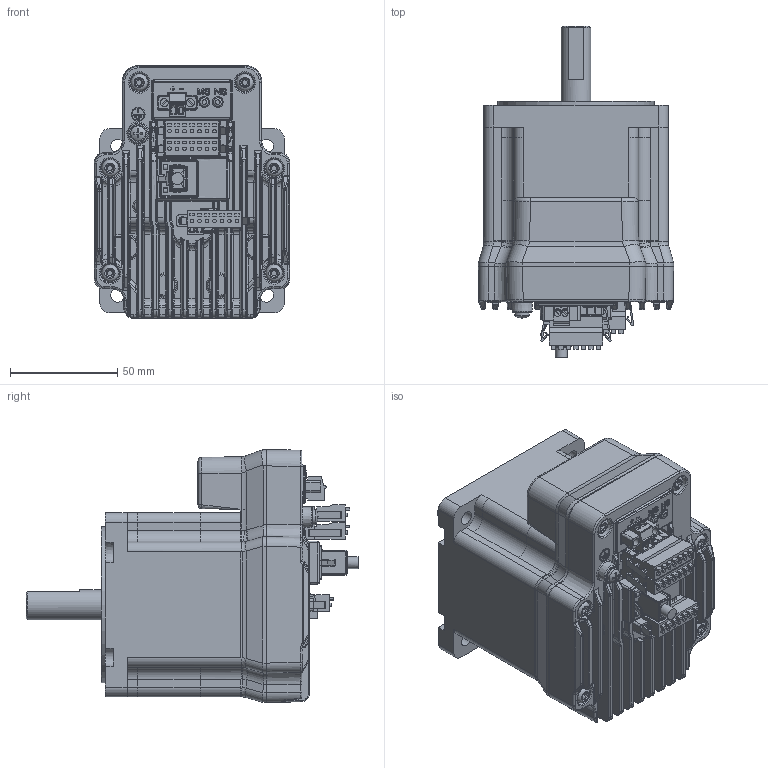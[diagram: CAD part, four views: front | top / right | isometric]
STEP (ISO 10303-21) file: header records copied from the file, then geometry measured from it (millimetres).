
FILE_DESCRIPTION(('LMDXE85 Single-Stack Web Model.stp'),'1');
FILE_NAME('T:/Kubotek Models For Design Assemblies/On-Line web models/LMD34/LMDXE85 Single-Stack Web Model.stp', '2013-04-05T15:05:58',('P. Bordua, 04/05/13'), ('Schneider Electric Motion USA'), 'KCM Version 1.1.514.0', 'Kubotek KeyCreator', 'Kubotek KeyCreator 2012 11.3.1');
FILE_SCHEMA(('AUTOMOTIVE_DESIGN'));
Length unit declared in the file: inch
Bounding box: 91.24 x 155.11 x 118.13 mm (x, y, z)
Volume: 733963.6 mm3; surface area: 94204.1 mm2
Topology: 9 solids, 9 shells, 4727 faces, 11955 edges, 7505 vertices
Faces by surface type: plane 2601, cylinder 1115, bspline 784, sphere 87, torus 78, cone 60, extrusion 2
Full cylindrical faces by diameter (mm): 1.6 x31, 1.611 x4, 1.686 x28, 2.5 x2, 3.505 x1, 3.792 x4, 5.004 x2, 5.588 x2, 6.502 x4, 6.858 x1, 7.62 x1, 8 x6, 9.006 x3, 14 x1, 15.748 x1, 66.396 x1, 73 x1
Entity records: 179343 total; most frequent: CARTESIAN_POINT 83129, ORIENTED_EDGE 18428, DIRECTION 16560, EDGE_CURVE 9214, VERTEX_POINT 5745, AXIS2_PLACEMENT_3D 5534, VECTOR 5492, LINE 5490
